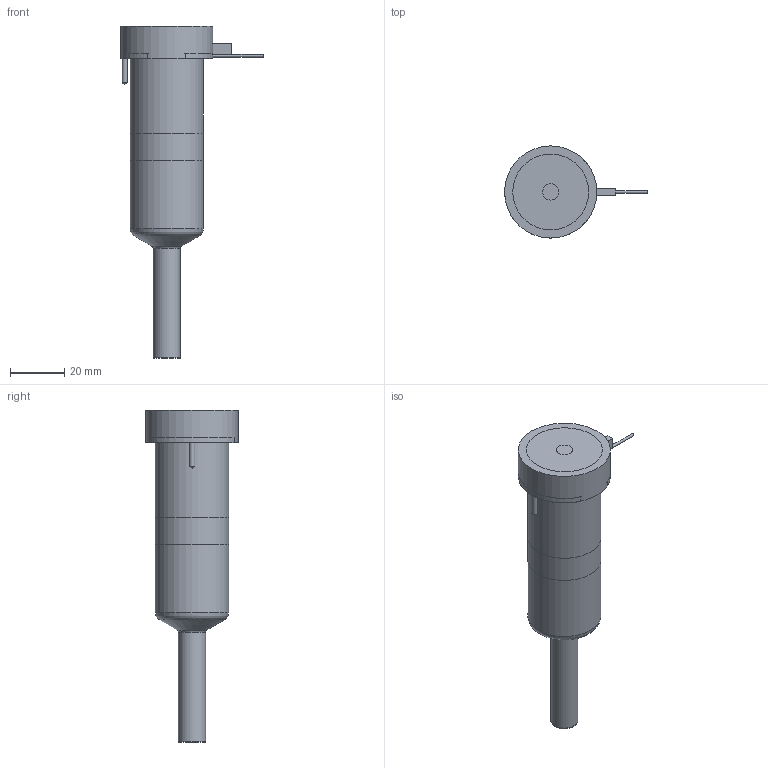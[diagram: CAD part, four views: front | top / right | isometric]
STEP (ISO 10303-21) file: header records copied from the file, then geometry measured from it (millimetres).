
FILE_DESCRIPTION(/* description */ (''),/* implementation_level */ '2;1');
FILE_NAME(/* name */ 'BXTSL-BXISL-BXOSL13075_200C_b',/* time_stamp */ '2008-04-29T14:05:55+12:00',/* author */ (''),/* organization */ (''),/* preprocessor_version */ 'ST-DEVELOPER v9',/* originating_system */ 'UGS - NX 4.0',/* authorisation */ '');
FILE_SCHEMA (('CONFIG_CONTROL_DESIGN'));
Length unit declared in the file: millimetre
Products named in the file (1): BXTSL-BXISL-BXOSL13075_200C_b
Bounding box: 52.65 x 34 x 122.49 mm (x, y, z)
Volume: 96946 mm3; surface area: 21956.4 mm2
Topology: 6 solids, 6 shells, 73 faces, 141 edges, 91 vertices
Faces by surface type: plane 34, cylinder 23, cone 8, torus 7, bspline 1
Full cylindrical faces by diameter (mm): 0.9 x1, 1 x3, 2 x2, 6 x1, 9.61 x1, 10.01 x2, 12.6 x1, 22.2 x1, 27 x2, 34 x1
Entity records: 1806 total; most frequent: CARTESIAN_POINT 357, DIRECTION 304, ORIENTED_EDGE 210, AXIS2_PLACEMENT_3D 134, EDGE_LOOP 112, EDGE_CURVE 105, VERTEX_POINT 84, ADVANCED_FACE 73
